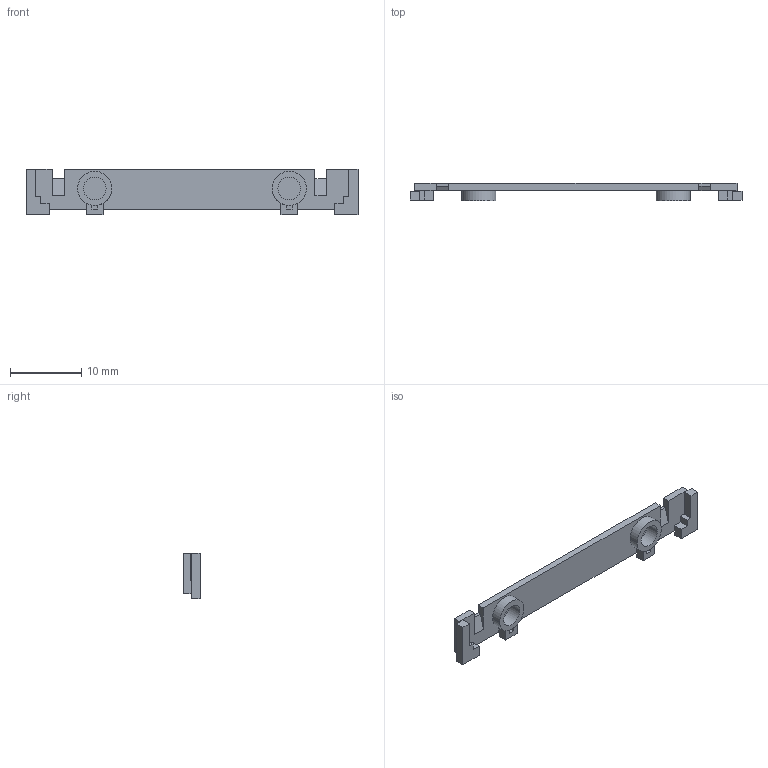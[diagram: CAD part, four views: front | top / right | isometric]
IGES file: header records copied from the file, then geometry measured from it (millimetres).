
Start section:  PTC IGES file: faxconn_cover_prt.igs
Global section: file name: faxconn_cover_prt.igs; native system: Pro/ENGINEER by Parametric Technology Corporation; preprocessor: 2000030; author: ECaille; organization: Unknown; date: 000803.091945; units: millimetre
Bounding box: 46.6 x 2.42 x 6.4 mm (x, y, z)
Surface area: 800.6 mm2 (no closed solid volume)
Topology: 0 solids, 0 shells, 67 faces, 647 edges, 910 vertices
Faces by surface type: bspline 59, revolution 8
